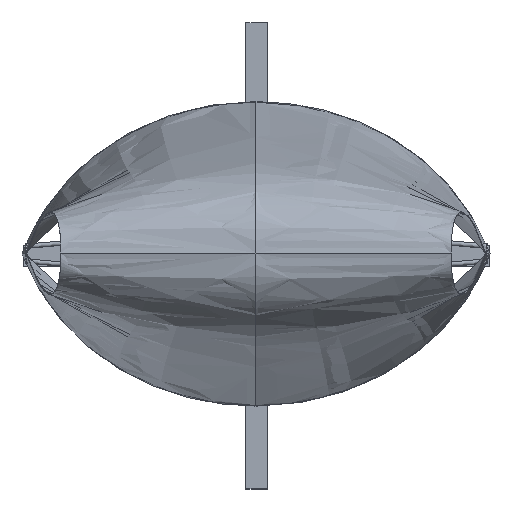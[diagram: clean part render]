
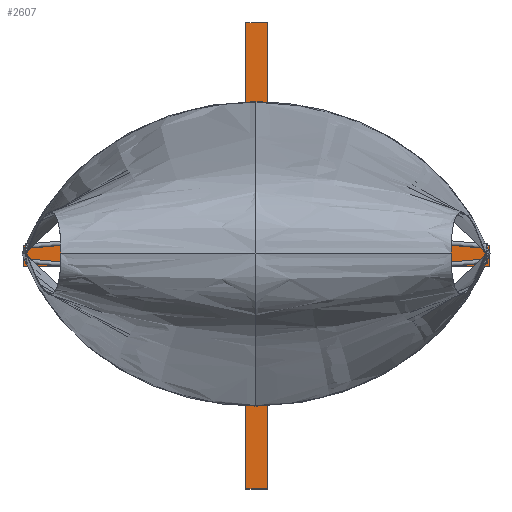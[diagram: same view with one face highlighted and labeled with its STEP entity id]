
A CAD part, top view. The second image highlights one B-rep face of the part: STEP entity #2607.
In plain terms, the highlighted planar face has unit normal (0, 0, 1).
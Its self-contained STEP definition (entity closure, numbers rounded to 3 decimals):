
#110=PLANE('',#2844);
#444=FACE_OUTER_BOUND('',#620,.T.);
#620=EDGE_LOOP('',(#2284,#2285,#2286,#2287,#2288,#2289,#2290,#2291,#2292,
#2293,#2294,#2295));
#754=LINE('',#7265,#952);
#758=LINE('',#7273,#956);
#761=LINE('',#7279,#959);
#764=LINE('',#7285,#962);
#767=LINE('',#7291,#965);
#770=LINE('',#7297,#968);
#773=LINE('',#7303,#971);
#776=LINE('',#7309,#974);
#779=LINE('',#7315,#977);
#782=LINE('',#7321,#980);
#785=LINE('',#7327,#983);
#788=LINE('',#7332,#986);
#952=VECTOR('',#3328,304.8);
#956=VECTOR('',#3334,304.8);
#959=VECTOR('',#3339,304.8);
#962=VECTOR('',#3344,304.8);
#965=VECTOR('',#3349,304.8);
#968=VECTOR('',#3354,304.8);
#971=VECTOR('',#3359,304.8);
#974=VECTOR('',#3364,304.8);
#977=VECTOR('',#3369,304.8);
#980=VECTOR('',#3374,304.8);
#983=VECTOR('',#3379,304.8);
#986=VECTOR('',#3384,304.8);
#1264=VERTEX_POINT('',#7263);
#1265=VERTEX_POINT('',#7264);
#1268=VERTEX_POINT('',#7272);
#1270=VERTEX_POINT('',#7278);
#1272=VERTEX_POINT('',#7284);
#1274=VERTEX_POINT('',#7290);
#1276=VERTEX_POINT('',#7296);
#1278=VERTEX_POINT('',#7302);
#1280=VERTEX_POINT('',#7308);
#1282=VERTEX_POINT('',#7314);
#1284=VERTEX_POINT('',#7320);
#1286=VERTEX_POINT('',#7326);
#1596=EDGE_CURVE('',#1264,#1265,#754,.T.);
#1600=EDGE_CURVE('',#1268,#1264,#758,.T.);
#1603=EDGE_CURVE('',#1270,#1268,#761,.T.);
#1606=EDGE_CURVE('',#1272,#1270,#764,.T.);
#1609=EDGE_CURVE('',#1274,#1272,#767,.T.);
#1612=EDGE_CURVE('',#1276,#1274,#770,.T.);
#1615=EDGE_CURVE('',#1278,#1276,#773,.T.);
#1618=EDGE_CURVE('',#1280,#1278,#776,.T.);
#1621=EDGE_CURVE('',#1282,#1280,#779,.T.);
#1624=EDGE_CURVE('',#1284,#1282,#782,.T.);
#1627=EDGE_CURVE('',#1286,#1284,#785,.T.);
#1630=EDGE_CURVE('',#1265,#1286,#788,.T.);
#2284=ORIENTED_EDGE('',*,*,#1630,.T.);
#2285=ORIENTED_EDGE('',*,*,#1627,.T.);
#2286=ORIENTED_EDGE('',*,*,#1624,.T.);
#2287=ORIENTED_EDGE('',*,*,#1621,.T.);
#2288=ORIENTED_EDGE('',*,*,#1618,.T.);
#2289=ORIENTED_EDGE('',*,*,#1615,.T.);
#2290=ORIENTED_EDGE('',*,*,#1612,.T.);
#2291=ORIENTED_EDGE('',*,*,#1609,.T.);
#2292=ORIENTED_EDGE('',*,*,#1606,.T.);
#2293=ORIENTED_EDGE('',*,*,#1603,.T.);
#2294=ORIENTED_EDGE('',*,*,#1600,.T.);
#2295=ORIENTED_EDGE('',*,*,#1596,.T.);
#2607=ADVANCED_FACE('',(#444),#110,.T.);
#2844=AXIS2_PLACEMENT_3D('',#7403,#3440,#3441);
#3328=DIRECTION('',(-1.,0.,0.));
#3334=DIRECTION('',(0.,1.,0.));
#3339=DIRECTION('',(-1.,0.,0.));
#3344=DIRECTION('',(0.,1.,0.));
#3349=DIRECTION('',(1.,0.,0.));
#3354=DIRECTION('',(0.,1.,0.));
#3359=DIRECTION('',(1.,0.,0.));
#3364=DIRECTION('',(0.,-1.,0.));
#3369=DIRECTION('',(1.,0.,0.));
#3374=DIRECTION('',(0.,-1.,0.));
#3379=DIRECTION('',(-1.,0.,0.));
#3384=DIRECTION('',(0.,-1.,0.));
#3440=DIRECTION('center_axis',(0.,0.,1.));
#3441=DIRECTION('ref_axis',(0.,-1.,0.));
#7263=CARTESIAN_POINT('',(10.,212.5,24.8));
#7264=CARTESIAN_POINT('',(-10.,212.5,24.8));
#7265=CARTESIAN_POINT('',(10.,212.5,24.8));
#7272=CARTESIAN_POINT('',(10.,10.,24.8));
#7273=CARTESIAN_POINT('',(10.,10.,24.8));
#7278=CARTESIAN_POINT('',(212.5,10.,24.8));
#7279=CARTESIAN_POINT('',(212.5,10.,24.8));
#7284=CARTESIAN_POINT('',(212.5,-10.,24.8));
#7285=CARTESIAN_POINT('',(212.5,-10.,24.8));
#7290=CARTESIAN_POINT('',(10.,-10.,24.8));
#7291=CARTESIAN_POINT('',(10.,-10.,24.8));
#7296=CARTESIAN_POINT('',(10.,-212.5,24.8));
#7297=CARTESIAN_POINT('',(10.,-212.5,24.8));
#7302=CARTESIAN_POINT('',(-10.,-212.5,24.8));
#7303=CARTESIAN_POINT('',(-10.,-212.5,24.8));
#7308=CARTESIAN_POINT('',(-10.,-10.,24.8));
#7309=CARTESIAN_POINT('',(-10.,-10.,24.8));
#7314=CARTESIAN_POINT('',(-212.5,-10.,24.8));
#7315=CARTESIAN_POINT('',(-212.5,-10.,24.8));
#7320=CARTESIAN_POINT('',(-212.5,10.,24.8));
#7321=CARTESIAN_POINT('',(-212.5,10.,24.8));
#7326=CARTESIAN_POINT('',(-10.,10.,24.8));
#7327=CARTESIAN_POINT('',(-10.,10.,24.8));
#7332=CARTESIAN_POINT('',(-10.,212.5,24.8));
#7403=CARTESIAN_POINT('Origin',(-10.,10.,24.8));
